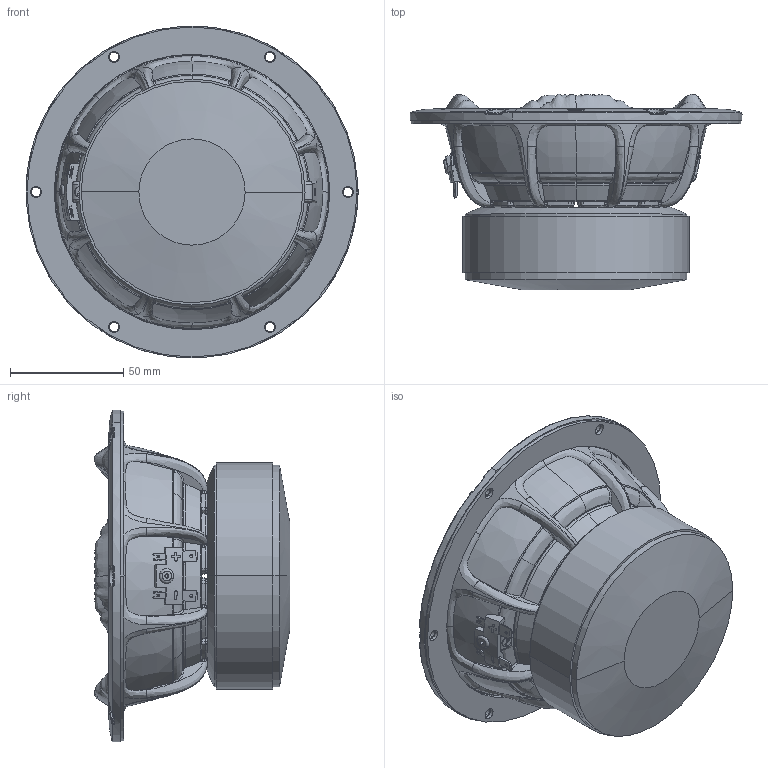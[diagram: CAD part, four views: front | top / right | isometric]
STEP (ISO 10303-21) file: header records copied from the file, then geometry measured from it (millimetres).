
FILE_DESCRIPTION (( 'STEP AP203' ), '1' );
FILE_NAME ('DU87-005-01.STEP', '2022-02-03T15:35:37', ( '' ), ( '' ), 'SwSTEP 2.0', 'SolidWorks 2021', '' );
FILE_SCHEMA (( 'CONFIG_CONTROL_DESIGN' ));
Length unit declared in the file: millimetre
Products named in the file (1): DU87-005-01
Bounding box: 146.89 x 86.53 x 146.86 mm (x, y, z)
Volume: 634394.4 mm3; surface area: 76168.2 mm2
Topology: 1 solids, 10 shells, 1035 faces, 2621 edges, 1603 vertices
Faces by surface type: bspline 461, plane 190, cylinder 160, torus 92, cone 91, sphere 41
Entity records: 229676 total; most frequent: CARTESIAN_POINT 208893, ORIENTED_EDGE 5198, DIRECTION 2901, EDGE_CURVE 2599, VERTEX_POINT 1601, B_SPLINE_CURVE_WITH_KNOTS 1389, AXIS2_PLACEMENT_3D 1189, EDGE_LOOP 1088
